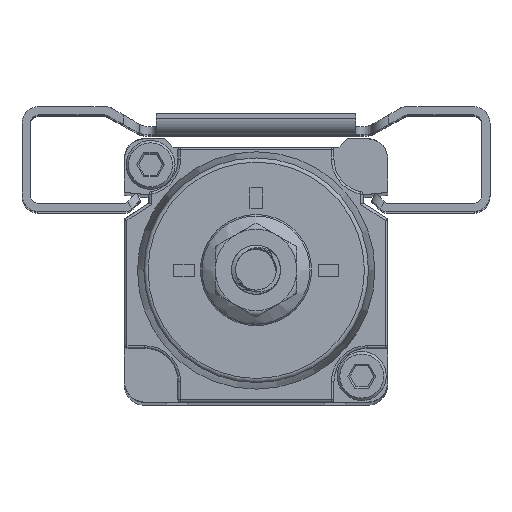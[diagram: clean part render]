
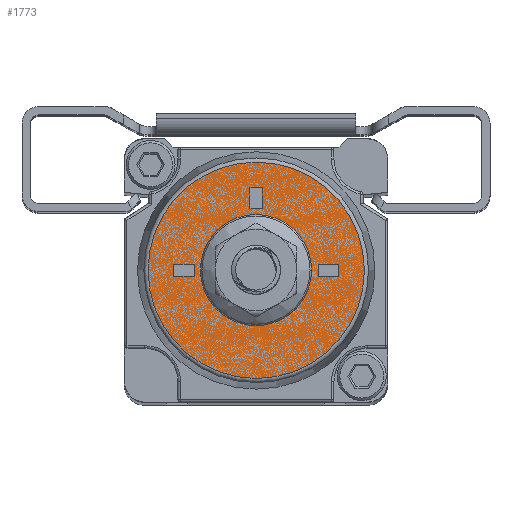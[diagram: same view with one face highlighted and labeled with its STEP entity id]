
A CAD part, top view. The second image highlights one B-rep face of the part: STEP entity #1773.
In plain terms, the highlighted planar face has unit normal (0, 0, 1).
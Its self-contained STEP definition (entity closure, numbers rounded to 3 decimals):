
#604=FACE_BOUND('',#4529,.T.);
#605=FACE_BOUND('',#4530,.T.);
#606=FACE_BOUND('',#4531,.T.);
#607=FACE_BOUND('',#4532,.T.);
#608=FACE_BOUND('',#4533,.T.);
#993=PLANE('',#22940);
#1773=ADVANCED_FACE('',(#604,#605,#606,#607,#608),#993,.T.);
#4529=EDGE_LOOP('',(#7362));
#4530=EDGE_LOOP('',(#7363,#7364,#7365,#7366));
#4531=EDGE_LOOP('',(#7367,#7368,#7369,#7370));
#4532=EDGE_LOOP('',(#7371,#7372,#7373,#7374));
#4533=EDGE_LOOP('',(#7375));
#5769=CIRCLE('',#22912,3.993);
#5780=CIRCLE('',#22938,13.037);
#7362=ORIENTED_EDGE('',*,*,#15429,.F.);
#7363=ORIENTED_EDGE('',*,*,#15439,.F.);
#7364=ORIENTED_EDGE('',*,*,#15442,.F.);
#7365=ORIENTED_EDGE('',*,*,#15445,.F.);
#7366=ORIENTED_EDGE('',*,*,#15447,.F.);
#7367=ORIENTED_EDGE('',*,*,#15470,.F.);
#7368=ORIENTED_EDGE('',*,*,#15471,.F.);
#7369=ORIENTED_EDGE('',*,*,#15472,.F.);
#7370=ORIENTED_EDGE('',*,*,#15473,.F.);
#7371=ORIENTED_EDGE('',*,*,#15458,.F.);
#7372=ORIENTED_EDGE('',*,*,#15462,.F.);
#7373=ORIENTED_EDGE('',*,*,#15464,.F.);
#7374=ORIENTED_EDGE('',*,*,#15466,.F.);
#7375=ORIENTED_EDGE('',*,*,#15469,.F.);
#13175=VERTEX_POINT('',#31889);
#13184=VERTEX_POINT('',#31911);
#13185=VERTEX_POINT('',#31913);
#13186=VERTEX_POINT('',#31917);
#13188=VERTEX_POINT('',#31923);
#13197=VERTEX_POINT('',#31949);
#13198=VERTEX_POINT('',#31951);
#13199=VERTEX_POINT('',#31956);
#13200=VERTEX_POINT('',#31960);
#13203=VERTEX_POINT('',#31972);
#13204=VERTEX_POINT('',#31975);
#13205=VERTEX_POINT('',#31976);
#13206=VERTEX_POINT('',#31978);
#13207=VERTEX_POINT('',#31980);
#15429=EDGE_CURVE('',#13175,#13175,#5769,.T.);
#15439=EDGE_CURVE('',#13184,#13185,#18576,.T.);
#15442=EDGE_CURVE('',#13186,#13184,#18579,.T.);
#15445=EDGE_CURVE('',#13188,#13186,#18582,.T.);
#15447=EDGE_CURVE('',#13185,#13188,#18584,.T.);
#15458=EDGE_CURVE('',#13197,#13198,#18591,.T.);
#15462=EDGE_CURVE('',#13199,#13197,#18595,.T.);
#15464=EDGE_CURVE('',#13200,#13199,#18597,.T.);
#15466=EDGE_CURVE('',#13198,#13200,#18599,.T.);
#15469=EDGE_CURVE('',#13203,#13203,#5780,.T.);
#15470=EDGE_CURVE('',#13204,#13205,#18600,.T.);
#15471=EDGE_CURVE('',#13206,#13204,#18601,.T.);
#15472=EDGE_CURVE('',#13207,#13206,#18602,.T.);
#15473=EDGE_CURVE('',#13205,#13207,#18603,.T.);
#18576=LINE('',#31912,#20794);
#18579=LINE('',#31918,#20797);
#18582=LINE('',#31924,#20800);
#18584=LINE('',#31927,#20802);
#18591=LINE('',#31950,#20809);
#18595=LINE('',#31957,#20813);
#18597=LINE('',#31961,#20815);
#18599=LINE('',#31964,#20817);
#18600=LINE('',#31974,#20818);
#18601=LINE('',#31977,#20819);
#18602=LINE('',#31979,#20820);
#18603=LINE('',#31981,#20821);
#20794=VECTOR('',#25570,1.);
#20797=VECTOR('',#25575,1.);
#20800=VECTOR('',#25580,1.);
#20802=VECTOR('',#25584,1.);
#20809=VECTOR('',#25605,1.);
#20813=VECTOR('',#25611,1.);
#20815=VECTOR('',#25615,1.);
#20817=VECTOR('',#25619,1.);
#20818=VECTOR('',#25632,1.);
#20819=VECTOR('',#25633,1.);
#20820=VECTOR('',#25634,1.);
#20821=VECTOR('',#25635,1.);
#22912=AXIS2_PLACEMENT_3D('',#31888,#25547,#25548);
#22938=AXIS2_PLACEMENT_3D('',#31971,#25628,#25629);
#22940=AXIS2_PLACEMENT_3D('',#31982,#25636,#25637);
#25547=DIRECTION('',(0.,0.,1.));
#25548=DIRECTION('',(1.,0.,0.));
#25570=DIRECTION('',(0.,-1.,0.));
#25575=DIRECTION('',(-1.,0.,0.));
#25580=DIRECTION('',(0.,1.,0.));
#25584=DIRECTION('',(1.,0.,0.));
#25605=DIRECTION('',(0.,1.,0.));
#25611=DIRECTION('',(1.,0.,0.));
#25615=DIRECTION('',(0.,-1.,0.));
#25619=DIRECTION('',(-1.,0.,0.));
#25628=DIRECTION('',(0.,0.,-1.));
#25629=DIRECTION('',(-1.,0.,0.));
#25632=DIRECTION('',(1.,0.,0.));
#25633=DIRECTION('',(0.,-1.,0.));
#25634=DIRECTION('',(-1.,0.,0.));
#25635=DIRECTION('',(0.,1.,0.));
#25636=DIRECTION('',(0.,0.,1.));
#25637=DIRECTION('',(1.,0.,0.));
#31888=CARTESIAN_POINT('',(250.023,-15.873,-133.036));
#31889=CARTESIAN_POINT('',(254.016,-15.873,-133.036));
#31911=CARTESIAN_POINT('',(249.274,-5.928,-133.036));
#31912=CARTESIAN_POINT('',(249.274,-5.928,-133.036));
#31913=CARTESIAN_POINT('',(249.274,-8.424,-133.036));
#31917=CARTESIAN_POINT('',(250.771,-5.928,-133.036));
#31918=CARTESIAN_POINT('',(250.771,-5.928,-133.036));
#31923=CARTESIAN_POINT('',(250.771,-8.424,-133.036));
#31924=CARTESIAN_POINT('',(250.771,-8.424,-133.036));
#31927=CARTESIAN_POINT('',(249.274,-8.424,-133.036));
#31949=CARTESIAN_POINT('',(259.967,-16.621,-133.036));
#31950=CARTESIAN_POINT('',(259.967,-16.621,-133.036));
#31951=CARTESIAN_POINT('',(259.967,-15.124,-133.036));
#31956=CARTESIAN_POINT('',(257.472,-16.621,-133.036));
#31957=CARTESIAN_POINT('',(257.472,-16.621,-133.036));
#31960=CARTESIAN_POINT('',(257.472,-15.124,-133.036));
#31961=CARTESIAN_POINT('',(257.472,-15.124,-133.036));
#31964=CARTESIAN_POINT('',(259.967,-15.124,-133.036));
#31971=CARTESIAN_POINT('',(250.023,-15.873,-133.036));
#31972=CARTESIAN_POINT('',(236.986,-15.873,-133.036));
#31974=CARTESIAN_POINT('',(240.078,-16.621,-133.036));
#31975=CARTESIAN_POINT('',(240.078,-16.621,-133.036));
#31976=CARTESIAN_POINT('',(242.574,-16.621,-133.036));
#31977=CARTESIAN_POINT('',(240.078,-15.124,-133.036));
#31978=CARTESIAN_POINT('',(240.078,-15.124,-133.036));
#31979=CARTESIAN_POINT('',(242.574,-15.124,-133.036));
#31980=CARTESIAN_POINT('',(242.574,-15.124,-133.036));
#31981=CARTESIAN_POINT('',(242.574,-16.621,-133.036));
#31982=CARTESIAN_POINT('',(250.023,-15.873,-133.036));
